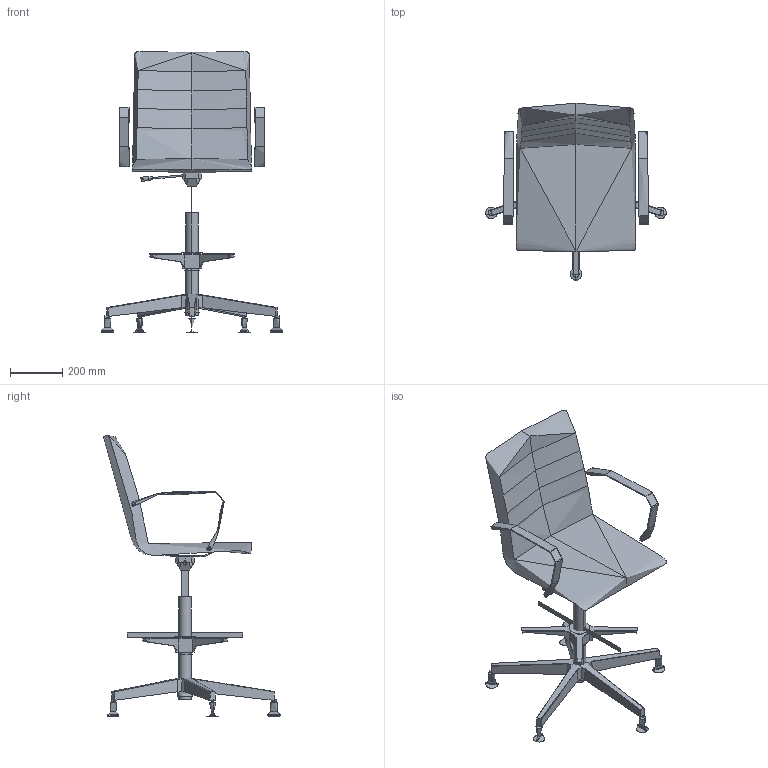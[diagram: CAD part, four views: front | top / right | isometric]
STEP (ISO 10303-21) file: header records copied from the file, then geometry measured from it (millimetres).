
FILE_DESCRIPTION(/* description */ (''),/* implementation_level */ '2;1');
FILE_NAME(/* name */ 'OS8800~1',/* time_stamp */ '2017-08-07T21:09:07+02:00',/* author */ (''),/* organization */ (''),/* preprocessor_version */ 'ST-DEVELOPER v15',/* originating_system */ '',/* authorisation */ '');
FILE_SCHEMA (('CONFIG_CONTROL_DESIGN'));
Length unit declared in the file: millimetre
Products named in the file (1): Document
Bounding box: 692.37 x 675.57 x 1071.69 mm (x, y, z)
Volume: 19409609.6 mm3; surface area: 1648672.4 mm2
Topology: 13 solids, 23 shells, 363 faces, 868 edges, 546 vertices
Faces by surface type: bspline 253, plane 110
Entity records: 17190 total; most frequent: CARTESIAN_POINT 12073, ORIENTED_EDGE 1662, EDGE_CURVE 865, VERTEX_POINT 542, B_SPLINE_CURVE_WITH_KNOTS 379, EDGE_LOOP 377, ADVANCED_FACE 363, FACE_OUTER_BOUND 363
